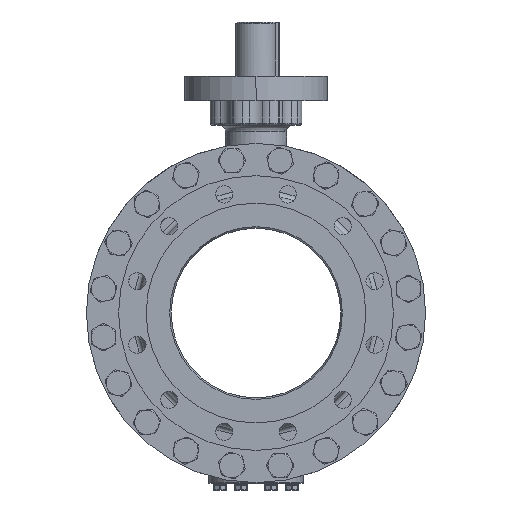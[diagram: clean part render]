
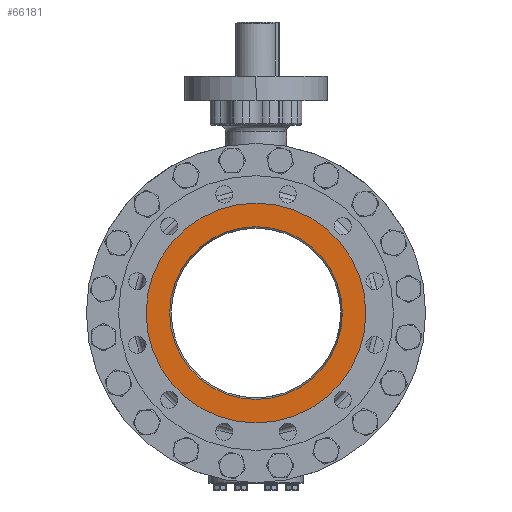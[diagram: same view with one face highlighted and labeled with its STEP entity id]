
A CAD part, left-side view. The second image highlights one B-rep face of the part: STEP entity #66181.
In plain terms, the highlighted planar face has unit normal (-1, 0, 0).
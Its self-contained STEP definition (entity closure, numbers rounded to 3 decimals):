
#4105=CARTESIAN_POINT('',(-266.5,0.,0.));
#4106=DIRECTION('',(1.,0.,0.));
#4107=DIRECTION('',(0.,0.,1.));
#4108=AXIS2_PLACEMENT_3D('',#4105,#4106,#4107);
#4110=CARTESIAN_POINT('',(-266.5,0.,0.));
#4111=DIRECTION('',(-1.,0.,0.));
#4112=DIRECTION('',(0.,0.,1.));
#4113=AXIS2_PLACEMENT_3D('',#4110,#4111,#4112);
#4115=CARTESIAN_POINT('',(-266.5,0.,0.));
#4116=DIRECTION('',(1.,0.,0.));
#4117=DIRECTION('',(0.,0.,1.));
#4118=AXIS2_PLACEMENT_3D('',#4115,#4116,#4117);
#4120=CARTESIAN_POINT('',(-266.5,0.,0.));
#4121=DIRECTION('',(-1.,0.,0.));
#4122=DIRECTION('',(0.,0.,1.));
#4123=AXIS2_PLACEMENT_3D('',#4120,#4121,#4122);
#55395=CARTESIAN_POINT('',(-266.5,0.,127.3));
#55397=VERTEX_POINT('',#55395);
#55403=CARTESIAN_POINT('',(-266.5,0.,-127.3));
#55405=VERTEX_POINT('',#55403);
#55522=CARTESIAN_POINT('',(-266.5,0.,161.95));
#55524=VERTEX_POINT('',#55522);
#55526=CARTESIAN_POINT('',(-266.5,0.,-161.95));
#55528=VERTEX_POINT('',#55526);
#66166=CARTESIAN_POINT('',(-266.5,0.,0.));
#66167=DIRECTION('',(-1.,0.,0.));
#66168=DIRECTION('',(0.,0.,-1.));
#66169=AXIS2_PLACEMENT_3D('',#66166,#66167,#66168);
#66170=PLANE('',#66169);
#66171=ORIENTED_EDGE('',*,*,#66159,.F.);
#66172=ORIENTED_EDGE('',*,*,#66148,.T.);
#66173=EDGE_LOOP('',(#66171,#66172));
#66174=FACE_OUTER_BOUND('',#66173,.F.);
#66176=ORIENTED_EDGE('',*,*,#66175,.F.);
#66178=ORIENTED_EDGE('',*,*,#66177,.T.);
#66179=EDGE_LOOP('',(#66176,#66178));
#66180=FACE_BOUND('',#66179,.F.);
#66181=ADVANCED_FACE('',(#66174,#66180),#66170,.T.);
#4109=CIRCLE('',#4108,161.95);
#4114=CIRCLE('',#4113,161.95);
#4119=CIRCLE('',#4118,127.3);
#4124=CIRCLE('',#4123,127.3);
#66148=EDGE_CURVE('',#55524,#55528,#4109,.T.);
#66159=EDGE_CURVE('',#55524,#55528,#4114,.T.);
#66175=EDGE_CURVE('',#55397,#55405,#4119,.T.);
#66177=EDGE_CURVE('',#55397,#55405,#4124,.T.);
